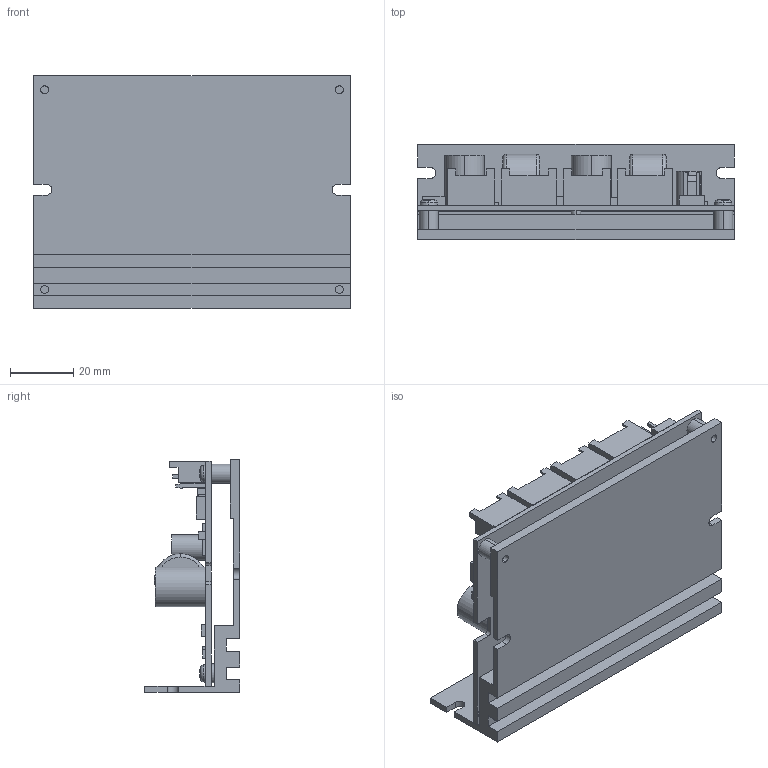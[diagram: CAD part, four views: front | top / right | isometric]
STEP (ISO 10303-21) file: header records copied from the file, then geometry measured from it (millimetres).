
FILE_DESCRIPTION (( 'STEP AP214' ), '1' );
FILE_NAME ('EXD5014MS-2L.STEP', '2016-09-07T07:16:02', ( 'hoho' ), ( '' ), 'SwSTEP 2.0', 'SolidWorks 2013', '' );
FILE_SCHEMA (( 'AUTOMOTIVE_DESIGN' ));
Length unit declared in the file: millimetre
Products named in the file (8): 大莫氏公-PIN02; 接頭-5pin; 接頭-6pin; NKJ3-6_NKJ3-6; VR-B02; EXD5014MS-2L-PCB; EXD5014MS-2L-C1; EXD5014MS-2L
Assembly tree (14 placements, depth 2):
  EXD5014MS-2L
    EXD5014MS-2L-C1
    EXD5014MS-2L-PCB
    VR-B02  x2
    NKJ3-6_NKJ3-6  x5
    接頭-6pin  x2
    接頭-5pin  x2
    大莫氏公-PIN02
Bounding box: 100 x 30 x 73.5 mm (x, y, z)
Volume: 53579.4 mm3; surface area: 48601 mm2
Topology: 14 solids, 14 shells, 1266 faces, 3194 edges, 2110 vertices
Faces by surface type: plane 909, bspline 194, cylinder 97, torus 36, cone 20, sphere 10
Entity records: 35449 total; most frequent: CARTESIAN_POINT 10543, ORIENTED_EDGE 4040, DIRECTION 3456, EDGE_CURVE 2020, LINE 1634, VECTOR 1634, VERTEX_POINT 1338, EDGE_LOOP 940
